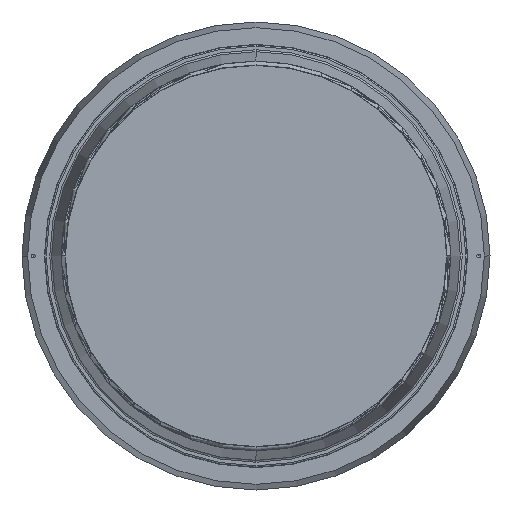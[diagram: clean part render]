
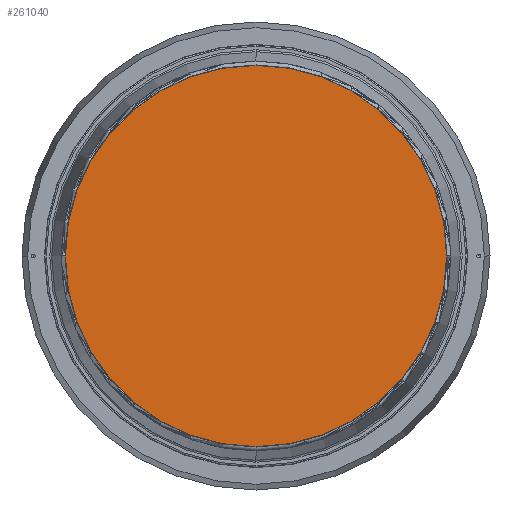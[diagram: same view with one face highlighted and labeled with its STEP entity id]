
A CAD part, front view. The second image highlights one B-rep face of the part: STEP entity #261040.
In plain terms, the highlighted planar face has unit normal (0, -1, 0).
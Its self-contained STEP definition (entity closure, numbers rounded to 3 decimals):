
#13952 = DIRECTION ( 'NONE',  ( 0., 1., 0. ) ) ;
#26919 = DIRECTION ( 'NONE',  ( 0., -1., 0. ) ) ;
#35574 = ORIENTED_EDGE ( 'NONE', *, *, #117935, .T. ) ;
#38647 = VERTEX_POINT ( 'NONE', #105940 ) ;
#58297 = PLANE ( 'NONE',  #130244 ) ;
#69866 = ORIENTED_EDGE ( 'NONE', *, *, #109305, .T. ) ;
#71611 = CARTESIAN_POINT ( 'NONE',  ( 0., 0., 0. ) ) ;
#84407 = CIRCLE ( 'NONE', #250656, 500.958 ) ;
#94243 = DIRECTION ( 'NONE',  ( 1., 0., 0. ) ) ;
#105940 = CARTESIAN_POINT ( 'NONE',  ( -500.958, 0., 0. ) ) ;
#109305 = EDGE_CURVE ( 'NONE', #144726, #38647, #191094, .T. ) ;
#117935 = EDGE_CURVE ( 'NONE', #38647, #144726, #84407, .T. ) ;
#130244 = AXIS2_PLACEMENT_3D ( 'NONE', #148904, #13952, #171581 ) ;
#144726 = VERTEX_POINT ( 'NONE', #289758 ) ;
#148904 = CARTESIAN_POINT ( 'NONE',  ( -502.042, 0., 500000. ) ) ;
#160005 = FACE_OUTER_BOUND ( 'NONE', #216289, .T. ) ;
#161912 = CARTESIAN_POINT ( 'NONE',  ( 0., 0., 0. ) ) ;
#171581 = DIRECTION ( 'NONE',  ( -1., 0., 0. ) ) ;
#184512 = DIRECTION ( 'NONE',  ( 1., 0., 0. ) ) ;
#191094 = CIRCLE ( 'NONE', #229137, 500.958 ) ;
#216289 = EDGE_LOOP ( 'NONE', ( #69866, #35574 ) ) ;
#229113 = DIRECTION ( 'NONE',  ( 0., -1., 0. ) ) ;
#229137 = AXIS2_PLACEMENT_3D ( 'NONE', #71611, #229113, #94243 ) ;
#250656 = AXIS2_PLACEMENT_3D ( 'NONE', #161912, #26919, #184512 ) ;
#261040 = ADVANCED_FACE ( 'NONE', ( #160005 ), #58297, .F. ) ;
#289758 = CARTESIAN_POINT ( 'NONE',  ( 500.958, 0., 0. ) ) ;
